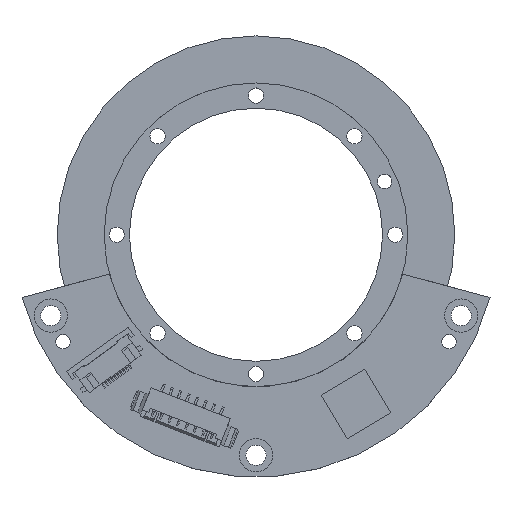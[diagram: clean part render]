
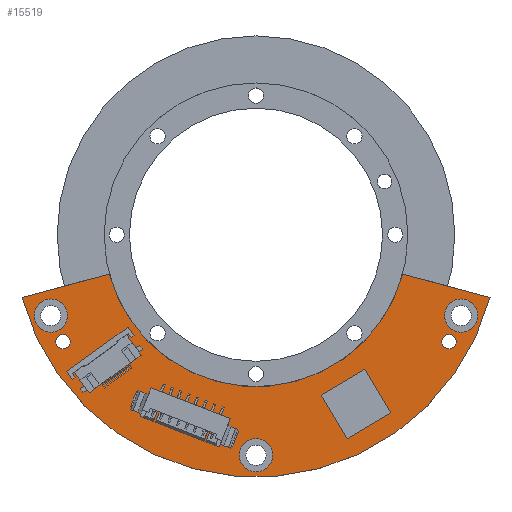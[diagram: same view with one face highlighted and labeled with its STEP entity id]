
A CAD part, top view. The second image highlights one B-rep face of the part: STEP entity #15519.
In plain terms, the highlighted planar face has unit normal (0, 0, 1).
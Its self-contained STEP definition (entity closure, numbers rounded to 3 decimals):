
#47 = EDGE_CURVE ( 'NONE', #2941, #13012, #20905, .T. ) ;
#206 = ORIENTED_EDGE ( 'NONE', *, *, #10009, .F. ) ;
#857 = VERTEX_POINT ( 'NONE', #2991 ) ;
#1088 = EDGE_LOOP ( 'NONE', ( #14695 ) ) ;
#1179 = EDGE_LOOP ( 'NONE', ( #19321 ) ) ;
#1190 = DIRECTION ( 'NONE',  ( 0., 0., -1. ) ) ;
#1301 = EDGE_LOOP ( 'NONE', ( #18034 ) ) ;
#1565 = CARTESIAN_POINT ( 'NONE',  ( 24.466, -14.04, 59.7 ) ) ;
#1754 = CIRCLE ( 'NONE', #6722, 33.5 ) ;
#2095 = AXIS2_PLACEMENT_3D ( 'NONE', #3579, #12455, #14124 ) ;
#2702 = CARTESIAN_POINT ( 'NONE',  ( -33.568, -7.924, 59.7 ) ) ;
#2860 = EDGE_CURVE ( 'NONE', #857, #857, #18045, .T. ) ;
#2868 = DIRECTION ( 'NONE',  ( 0., 0., 1. ) ) ;
#2870 = FACE_BOUND ( 'NONE', #1179, .T. ) ;
#2941 = VERTEX_POINT ( 'NONE', #21304 ) ;
#2991 = CARTESIAN_POINT ( 'NONE',  ( 24.868, -10.432, 59.7 ) ) ;
#3134 = ORIENTED_EDGE ( 'NONE', *, *, #4039, .F. ) ;
#3579 = CARTESIAN_POINT ( 'NONE',  ( -27.886, -14.04, 59.7 ) ) ;
#3865 = ORIENTED_EDGE ( 'NONE', *, *, #23086, .F. ) ;
#4039 = EDGE_CURVE ( 'NONE', #8161, #8161, #4665, .T. ) ;
#4096 = CARTESIAN_POINT ( 'NONE',  ( -29.588, -10.432, 59.7 ) ) ;
#4665 = CIRCLE ( 'NONE', #16159, 2.3 ) ;
#4729 = AXIS2_PLACEMENT_3D ( 'NONE', #17385, #2868, #11865 ) ;
#4866 = DIRECTION ( 'NONE',  ( 1., 0., 0. ) ) ;
#4870 = DIRECTION ( 'NONE',  ( -1., 0., 0. ) ) ;
#5781 = ORIENTED_EDGE ( 'NONE', *, *, #22363, .F. ) ;
#6146 = CARTESIAN_POINT ( 'NONE',  ( 19.075, -4.689, 59.7 ) ) ;
#6498 = VECTOR ( 'NONE', #19544, 1000. ) ;
#6722 = AXIS2_PLACEMENT_3D ( 'NONE', #8716, #21417, #4866 ) ;
#6933 = FACE_BOUND ( 'NONE', #1301, .T. ) ;
#6946 = CARTESIAN_POINT ( 'NONE',  ( -31.888, -10.432, 59.7 ) ) ;
#7281 = ORIENTED_EDGE ( 'NONE', *, *, #47, .F. ) ;
#8161 = VERTEX_POINT ( 'NONE', #8279 ) ;
#8216 = AXIS2_PLACEMENT_3D ( 'NONE', #14643, #12241, #19921 ) ;
#8279 = CARTESIAN_POINT ( 'NONE',  ( -3.51, -29.753, 59.7 ) ) ;
#8716 = CARTESIAN_POINT ( 'NONE',  ( -1.21, 0.747, 59.7 ) ) ;
#9875 = VECTOR ( 'NONE', #12622, 1000. ) ;
#9962 = CARTESIAN_POINT ( 'NONE',  ( 31.149, -7.924, 59.7 ) ) ;
#10009 = EDGE_CURVE ( 'NONE', #20688, #22784, #21497, .T. ) ;
#10188 = DIRECTION ( 'NONE',  ( -1., 0., 0. ) ) ;
#10554 = VERTEX_POINT ( 'NONE', #6946 ) ;
#11279 = CIRCLE ( 'NONE', #8216, 21. ) ;
#11418 = DIRECTION ( 'NONE',  ( 0., 0., 1. ) ) ;
#11865 = DIRECTION ( 'NONE',  ( -1., 0., 0. ) ) ;
#11988 = FACE_OUTER_BOUND ( 'NONE', #17764, .T. ) ;
#11999 = CARTESIAN_POINT ( 'NONE',  ( -28.886, -14.04, 59.7 ) ) ;
#12209 = FACE_BOUND ( 'NONE', #17724, .T. ) ;
#12241 = DIRECTION ( 'NONE',  ( 0., 0., 1. ) ) ;
#12345 = VERTEX_POINT ( 'NONE', #1565 ) ;
#12455 = DIRECTION ( 'NONE',  ( 0., 0., 1. ) ) ;
#12622 = DIRECTION ( 'NONE',  ( 0.966, 0.259, 0. ) ) ;
#13012 = VERTEX_POINT ( 'NONE', #9962 ) ;
#14124 = DIRECTION ( 'NONE',  ( -1., 0., 0. ) ) ;
#14249 = CARTESIAN_POINT ( 'NONE',  ( -1.21, 0.747, 59.7 ) ) ;
#14302 = CARTESIAN_POINT ( 'NONE',  ( -33.568, -7.924, 59.7 ) ) ;
#14345 = DIRECTION ( 'NONE',  ( 0., 0., 1. ) ) ;
#14454 = EDGE_LOOP ( 'NONE', ( #15008 ) ) ;
#14643 = CARTESIAN_POINT ( 'NONE',  ( -1.21, 0.747, 59.7 ) ) ;
#14695 = ORIENTED_EDGE ( 'NONE', *, *, #22094, .F. ) ;
#15008 = ORIENTED_EDGE ( 'NONE', *, *, #18781, .F. ) ;
#15072 = CIRCLE ( 'NONE', #4729, 1. ) ;
#15325 = CARTESIAN_POINT ( 'NONE',  ( -1.21, -29.753, 59.7 ) ) ;
#15519 = ADVANCED_FACE ( 'NONE', ( #12209, #16046, #6933, #11988, #21446, #2870 ), #23238, .F. ) ;
#15791 = DIRECTION ( 'NONE',  ( 0., 0., 1. ) ) ;
#16046 = FACE_BOUND ( 'NONE', #14454, .T. ) ;
#16159 = AXIS2_PLACEMENT_3D ( 'NONE', #15325, #15791, #4870 ) ;
#16586 = CIRCLE ( 'NONE', #2095, 1. ) ;
#16896 = AXIS2_PLACEMENT_3D ( 'NONE', #17709, #14345, #19504 ) ;
#17385 = CARTESIAN_POINT ( 'NONE',  ( 25.466, -14.04, 59.7 ) ) ;
#17399 = VERTEX_POINT ( 'NONE', #11999 ) ;
#17709 = CARTESIAN_POINT ( 'NONE',  ( 27.168, -10.432, 59.7 ) ) ;
#17724 = EDGE_LOOP ( 'NONE', ( #3134 ) ) ;
#17764 = EDGE_LOOP ( 'NONE', ( #5781, #206, #3865, #7281 ) ) ;
#18034 = ORIENTED_EDGE ( 'NONE', *, *, #21458, .F. ) ;
#18045 = CIRCLE ( 'NONE', #16896, 2.3 ) ;
#18739 = DIRECTION ( 'NONE',  ( -1., 0., 0. ) ) ;
#18781 = EDGE_CURVE ( 'NONE', #17399, #17399, #16586, .T. ) ;
#18939 = AXIS2_PLACEMENT_3D ( 'NONE', #4096, #11418, #18739 ) ;
#19321 = ORIENTED_EDGE ( 'NONE', *, *, #2860, .F. ) ;
#19504 = DIRECTION ( 'NONE',  ( -1., 0., 0. ) ) ;
#19544 = DIRECTION ( 'NONE',  ( 0.966, -0.259, 0. ) ) ;
#19921 = DIRECTION ( 'NONE',  ( 1., 0., 0. ) ) ;
#20688 = VERTEX_POINT ( 'NONE', #2702 ) ;
#20905 = LINE ( 'NONE', #6146, #6498 ) ;
#21304 = CARTESIAN_POINT ( 'NONE',  ( 19.075, -4.689, 59.7 ) ) ;
#21417 = DIRECTION ( 'NONE',  ( 0., 0., -1. ) ) ;
#21446 = FACE_BOUND ( 'NONE', #1088, .T. ) ;
#21458 = EDGE_CURVE ( 'NONE', #12345, #12345, #15072, .T. ) ;
#21497 = LINE ( 'NONE', #14302, #9875 ) ;
#22000 = CIRCLE ( 'NONE', #18939, 2.3 ) ;
#22094 = EDGE_CURVE ( 'NONE', #10554, #10554, #22000, .T. ) ;
#22157 = CARTESIAN_POINT ( 'NONE',  ( -21.494, -4.689, 59.7 ) ) ;
#22363 = EDGE_CURVE ( 'NONE', #22784, #2941, #11279, .T. ) ;
#22784 = VERTEX_POINT ( 'NONE', #22157 ) ;
#23086 = EDGE_CURVE ( 'NONE', #13012, #20688, #1754, .T. ) ;
#23238 = PLANE ( 'NONE',  #23397 ) ;
#23397 = AXIS2_PLACEMENT_3D ( 'NONE', #14249, #1190, #10188 ) ;
